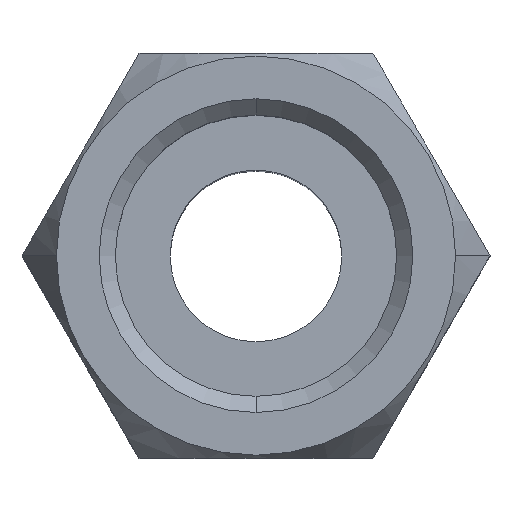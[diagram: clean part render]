
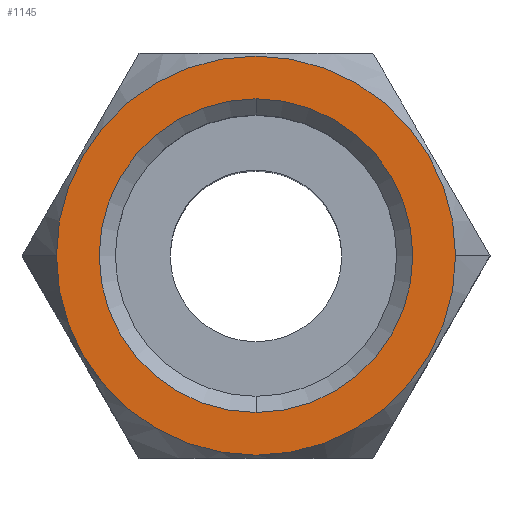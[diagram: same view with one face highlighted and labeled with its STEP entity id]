
A CAD part, top view. The second image highlights one B-rep face of the part: STEP entity #1145.
In plain terms, the highlighted planar face has unit normal (0, 0, 1).
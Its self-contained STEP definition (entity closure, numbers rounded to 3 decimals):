
#22=CARTESIAN_POINT('',(0.,0.,0.));
#23=DIRECTION('',(0.,0.,-1.));
#24=DIRECTION('',(0.,1.,0.));
#25=AXIS2_PLACEMENT_3D('',#22,#23,#24);
#35=CARTESIAN_POINT('',(0.,0.,0.));
#36=DIRECTION('',(0.,0.,1.));
#37=DIRECTION('',(0.,1.,0.));
#38=AXIS2_PLACEMENT_3D('',#35,#36,#37);
#590=CARTESIAN_POINT('',(0.,0.,0.));
#591=DIRECTION('',(0.,0.,1.));
#592=DIRECTION('',(1.,0.,0.));
#593=AXIS2_PLACEMENT_3D('',#590,#591,#592);
#595=CARTESIAN_POINT('',(0.,0.,0.));
#596=DIRECTION('',(0.,0.,1.));
#597=DIRECTION('',(-1.,0.,0.));
#598=AXIS2_PLACEMENT_3D('',#595,#596,#597);
#612=CARTESIAN_POINT('',(0.,6.579,0.));
#614=VERTEX_POINT('',#612);
#630=CARTESIAN_POINT('',(0.,-6.579,0.));
#632=VERTEX_POINT('',#630);
#652=CARTESIAN_POINT('',(8.372,0.,0.));
#653=CARTESIAN_POINT('',(-8.372,0.,0.));
#654=VERTEX_POINT('',#652);
#655=VERTEX_POINT('',#653);
#1131=CARTESIAN_POINT('',(0.,0.,0.));
#1132=DIRECTION('',(0.,0.,-1.));
#1133=DIRECTION('',(0.,-1.,0.));
#1134=AXIS2_PLACEMENT_3D('',#1131,#1132,#1133);
#1135=PLANE('',#1134);
#1137=ORIENTED_EDGE('',*,*,#1136,.F.);
#1138=ORIENTED_EDGE('',*,*,#1119,.F.);
#1139=EDGE_LOOP('',(#1137,#1138));
#1140=FACE_OUTER_BOUND('',#1139,.F.);
#1141=ORIENTED_EDGE('',*,*,#701,.T.);
#1142=ORIENTED_EDGE('',*,*,#683,.F.);
#1143=EDGE_LOOP('',(#1141,#1142));
#1144=FACE_BOUND('',#1143,.F.);
#1145=ADVANCED_FACE('',(#1140,#1144),#1135,.F.);
#26=CIRCLE('',#25,6.579);
#39=CIRCLE('',#38,6.579);
#594=CIRCLE('',#593,8.372);
#599=CIRCLE('',#598,8.372);
#683=EDGE_CURVE('',#614,#632,#26,.T.);
#701=EDGE_CURVE('',#614,#632,#39,.T.);
#1119=EDGE_CURVE('',#655,#654,#599,.T.);
#1136=EDGE_CURVE('',#654,#655,#594,.T.);
